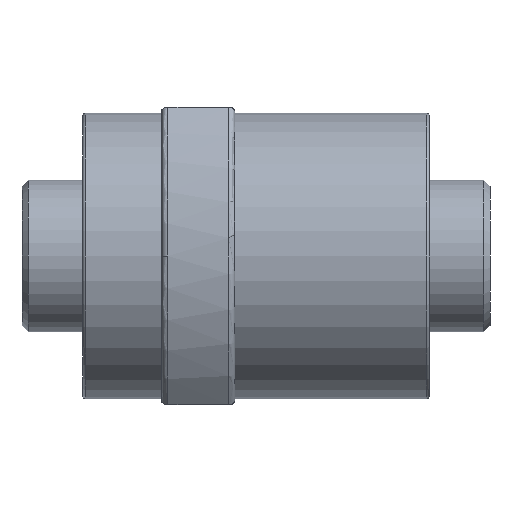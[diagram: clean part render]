
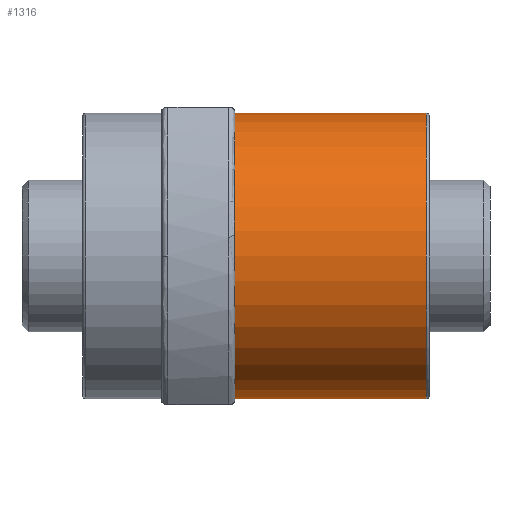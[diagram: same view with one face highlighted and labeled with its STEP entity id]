
A CAD part, front view. The second image highlights one B-rep face of the part: STEP entity #1316.
In plain terms, the highlighted cylindrical face has radius 23.5 mm (diameter 47 mm), a partial arc.
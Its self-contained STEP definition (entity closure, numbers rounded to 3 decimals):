
#80 = DIRECTION ( 'NONE',  ( 0., 0., -1. ) ) ;
#221 = VERTEX_POINT ( 'NONE', #1462 ) ;
#223 = VERTEX_POINT ( 'NONE', #1246 ) ;
#236 = CARTESIAN_POINT ( 'NONE',  ( 27., 0., -23.5 ) ) ;
#284 = ORIENTED_EDGE ( 'NONE', *, *, #638, .T. ) ;
#364 = VERTEX_POINT ( 'NONE', #1473 ) ;
#526 = DIRECTION ( 'NONE',  ( -1., 0., 0. ) ) ;
#580 = CARTESIAN_POINT ( 'NONE',  ( 25., 0., 0. ) ) ;
#616 = EDGE_LOOP ( 'NONE', ( #765, #1194, #284, #1525 ) ) ;
#638 = EDGE_CURVE ( 'NONE', #221, #223, #2037, .T. ) ;
#765 = ORIENTED_EDGE ( 'NONE', *, *, #836, .F. ) ;
#836 = EDGE_CURVE ( 'NONE', #364, #1383, #2002, .T. ) ;
#846 = DIRECTION ( 'NONE',  ( 0., 0., -1. ) ) ;
#1021 = VECTOR ( 'NONE', #1043, 1000. ) ;
#1043 = DIRECTION ( 'NONE',  ( 1., 0., 0. ) ) ;
#1194 = ORIENTED_EDGE ( 'NONE', *, *, #1763, .T. ) ;
#1203 = EDGE_CURVE ( 'NONE', #223, #1383, #1411, .T. ) ;
#1246 = CARTESIAN_POINT ( 'NONE',  ( 56.5, 0., -23.5 ) ) ;
#1316 = ADVANCED_FACE ( 'NONE', ( #2108 ), #2522, .T. ) ;
#1383 = VERTEX_POINT ( 'NONE', #2573 ) ;
#1404 = DIRECTION ( 'NONE',  ( 1., 0., 0. ) ) ;
#1411 = CIRCLE ( 'NONE', #1544, 23.5 ) ;
#1462 = CARTESIAN_POINT ( 'NONE',  ( 25., 0., -23.5 ) ) ;
#1473 = CARTESIAN_POINT ( 'NONE',  ( 25., 0., 23.5 ) ) ;
#1517 = DIRECTION ( 'NONE',  ( 0., 0., -1. ) ) ;
#1525 = ORIENTED_EDGE ( 'NONE', *, *, #1203, .T. ) ;
#1544 = AXIS2_PLACEMENT_3D ( 'NONE', #2157, #526, #80 ) ;
#1581 = DIRECTION ( 'NONE',  ( 1., 0., 0. ) ) ;
#1583 = AXIS2_PLACEMENT_3D ( 'NONE', #2696, #1581, #846 ) ;
#1763 = EDGE_CURVE ( 'NONE', #364, #221, #1844, .T. ) ;
#1844 = CIRCLE ( 'NONE', #2196, 23.5 ) ;
#1957 = CARTESIAN_POINT ( 'NONE',  ( 27., 0., 23.5 ) ) ;
#2002 = LINE ( 'NONE', #1957, #1021 ) ;
#2037 = LINE ( 'NONE', #236, #2657 ) ;
#2108 = FACE_OUTER_BOUND ( 'NONE', #616, .T. ) ;
#2157 = CARTESIAN_POINT ( 'NONE',  ( 56.5, 0., 0. ) ) ;
#2196 = AXIS2_PLACEMENT_3D ( 'NONE', #580, #2218, #1517 ) ;
#2218 = DIRECTION ( 'NONE',  ( 1., 0., 0. ) ) ;
#2522 = CYLINDRICAL_SURFACE ( 'NONE', #1583, 23.5 ) ;
#2573 = CARTESIAN_POINT ( 'NONE',  ( 56.5, 0., 23.5 ) ) ;
#2657 = VECTOR ( 'NONE', #1404, 1000. ) ;
#2696 = CARTESIAN_POINT ( 'NONE',  ( 27., 0., 0. ) ) ;
